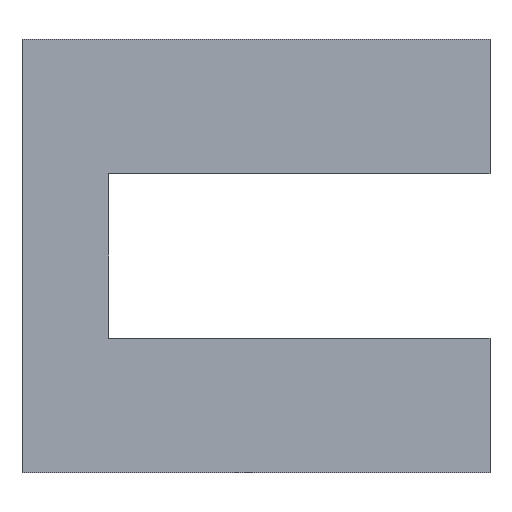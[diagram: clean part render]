
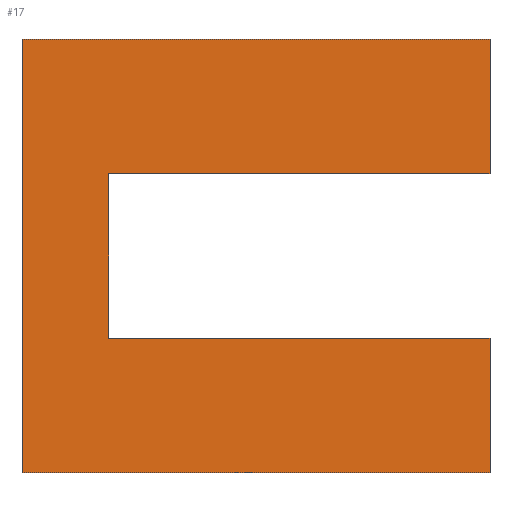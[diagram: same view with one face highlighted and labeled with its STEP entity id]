
A CAD part, front view. The second image highlights one B-rep face of the part: STEP entity #17.
In plain terms, the highlighted planar face has unit normal (0.035, -0.999, 0).
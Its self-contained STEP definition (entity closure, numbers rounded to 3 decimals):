
#17 = ADVANCED_FACE('',(#18),#32,.F.);
#18 = FACE_BOUND('',#19,.F.);
#19 = EDGE_LOOP('',(#20,#55,#83,#111,#139,#165,#191,#217));
#20 = ORIENTED_EDGE('',*,*,#21,.F.);
#21 = EDGE_CURVE('',#22,#24,#26,.T.);
#22 = VERTEX_POINT('',#23);
#23 = CARTESIAN_POINT('',(42.,-27.1,-25.));
#24 = VERTEX_POINT('',#25);
#25 = CARTESIAN_POINT('',(96.,-25.2,-25.));
#26 = SURFACE_CURVE('',#27,(#31,#43),.PCURVE_S1.);
#27 = LINE('',#28,#29);
#28 = CARTESIAN_POINT('',(42.,-27.1,-25.));
#29 = VECTOR('',#30,1.);
#30 = DIRECTION('',(0.999,0.035,0.));
#31 = PCURVE('',#32,#37);
#32 = PLANE('',#33);
#33 = AXIS2_PLACEMENT_3D('',#34,#35,#36);
#34 = CARTESIAN_POINT('',(42.,-27.1,-25.));
#35 = DIRECTION('',(-0.035,0.999,0.));
#36 = DIRECTION('',(0.999,0.035,0.));
#37 = DEFINITIONAL_REPRESENTATION('',(#38),#42);
#38 = LINE('',#39,#40);
#39 = CARTESIAN_POINT('',(0.,0.));
#40 = VECTOR('',#41,1.);
#41 = DIRECTION('',(1.,0.));
#42 = ( GEOMETRIC_REPRESENTATION_CONTEXT(2) 
PARAMETRIC_REPRESENTATION_CONTEXT() REPRESENTATION_CONTEXT('2D SPACE',''
  ) );
#43 = PCURVE('',#44,#49);
#44 = PLANE('',#45);
#45 = AXIS2_PLACEMENT_3D('',#46,#47,#48);
#46 = CARTESIAN_POINT('',(69.,-25.15,-25.));
#47 = DIRECTION('',(0.,0.,1.));
#48 = DIRECTION('',(1.,0.,-0.));
#49 = DEFINITIONAL_REPRESENTATION('',(#50),#54);
#50 = LINE('',#51,#52);
#51 = CARTESIAN_POINT('',(-27.,-1.95));
#52 = VECTOR('',#53,1.);
#53 = DIRECTION('',(0.999,0.035));
#54 = ( GEOMETRIC_REPRESENTATION_CONTEXT(2) 
PARAMETRIC_REPRESENTATION_CONTEXT() REPRESENTATION_CONTEXT('2D SPACE',''
  ) );
#55 = ORIENTED_EDGE('',*,*,#56,.T.);
#56 = EDGE_CURVE('',#22,#57,#59,.T.);
#57 = VERTEX_POINT('',#58);
#58 = CARTESIAN_POINT('',(42.,-27.1,25.));
#59 = SURFACE_CURVE('',#60,(#64,#71),.PCURVE_S1.);
#60 = LINE('',#61,#62);
#61 = CARTESIAN_POINT('',(42.,-27.1,-25.));
#62 = VECTOR('',#63,1.);
#63 = DIRECTION('',(0.,0.,1.));
#64 = PCURVE('',#32,#65);
#65 = DEFINITIONAL_REPRESENTATION('',(#66),#70);
#66 = LINE('',#67,#68);
#67 = CARTESIAN_POINT('',(0.,0.));
#68 = VECTOR('',#69,1.);
#69 = DIRECTION('',(0.,-1.));
#70 = ( GEOMETRIC_REPRESENTATION_CONTEXT(2) 
PARAMETRIC_REPRESENTATION_CONTEXT() REPRESENTATION_CONTEXT('2D SPACE',''
  ) );
#71 = PCURVE('',#72,#77);
#72 = PLANE('',#73);
#73 = AXIS2_PLACEMENT_3D('',#74,#75,#76);
#74 = CARTESIAN_POINT('',(42.,-25.1,-25.));
#75 = DIRECTION('',(1.,0.,-0.));
#76 = DIRECTION('',(0.,-1.,0.));
#77 = DEFINITIONAL_REPRESENTATION('',(#78),#82);
#78 = LINE('',#79,#80);
#79 = CARTESIAN_POINT('',(2.,0.));
#80 = VECTOR('',#81,1.);
#81 = DIRECTION('',(0.,-1.));
#82 = ( GEOMETRIC_REPRESENTATION_CONTEXT(2) 
PARAMETRIC_REPRESENTATION_CONTEXT() REPRESENTATION_CONTEXT('2D SPACE',''
  ) );
#83 = ORIENTED_EDGE('',*,*,#84,.T.);
#84 = EDGE_CURVE('',#57,#85,#87,.T.);
#85 = VERTEX_POINT('',#86);
#86 = CARTESIAN_POINT('',(96.,-25.2,25.));
#87 = SURFACE_CURVE('',#88,(#92,#99),.PCURVE_S1.);
#88 = LINE('',#89,#90);
#89 = CARTESIAN_POINT('',(42.,-27.1,25.));
#90 = VECTOR('',#91,1.);
#91 = DIRECTION('',(0.999,0.035,0.));
#92 = PCURVE('',#32,#93);
#93 = DEFINITIONAL_REPRESENTATION('',(#94),#98);
#94 = LINE('',#95,#96);
#95 = CARTESIAN_POINT('',(0.,-50.));
#96 = VECTOR('',#97,1.);
#97 = DIRECTION('',(1.,0.));
#98 = ( GEOMETRIC_REPRESENTATION_CONTEXT(2) 
PARAMETRIC_REPRESENTATION_CONTEXT() REPRESENTATION_CONTEXT('2D SPACE',''
  ) );
#99 = PCURVE('',#100,#105);
#100 = PLANE('',#101);
#101 = AXIS2_PLACEMENT_3D('',#102,#103,#104);
#102 = CARTESIAN_POINT('',(69.,-25.15,25.));
#103 = DIRECTION('',(0.,0.,1.));
#104 = DIRECTION('',(1.,0.,-0.));
#105 = DEFINITIONAL_REPRESENTATION('',(#106),#110);
#106 = LINE('',#107,#108);
#107 = CARTESIAN_POINT('',(-27.,-1.95));
#108 = VECTOR('',#109,1.);
#109 = DIRECTION('',(0.999,0.035));
#110 = ( GEOMETRIC_REPRESENTATION_CONTEXT(2) 
PARAMETRIC_REPRESENTATION_CONTEXT() REPRESENTATION_CONTEXT('2D SPACE',''
  ) );
#111 = ORIENTED_EDGE('',*,*,#112,.F.);
#112 = EDGE_CURVE('',#113,#85,#115,.T.);
#113 = VERTEX_POINT('',#114);
#114 = CARTESIAN_POINT('',(96.,-25.2,9.5));
#115 = SURFACE_CURVE('',#116,(#120,#127),.PCURVE_S1.);
#116 = LINE('',#117,#118);
#117 = CARTESIAN_POINT('',(96.,-25.2,-25.));
#118 = VECTOR('',#119,1.);
#119 = DIRECTION('',(0.,0.,1.));
#120 = PCURVE('',#32,#121);
#121 = DEFINITIONAL_REPRESENTATION('',(#122),#126);
#122 = LINE('',#123,#124);
#123 = CARTESIAN_POINT('',(54.033,0.));
#124 = VECTOR('',#125,1.);
#125 = DIRECTION('',(0.,-1.));
#126 = ( GEOMETRIC_REPRESENTATION_CONTEXT(2) 
PARAMETRIC_REPRESENTATION_CONTEXT() REPRESENTATION_CONTEXT('2D SPACE',''
  ) );
#127 = PCURVE('',#128,#133);
#128 = PLANE('',#129);
#129 = AXIS2_PLACEMENT_3D('',#130,#131,#132);
#130 = CARTESIAN_POINT('',(96.,-25.2,-25.));
#131 = DIRECTION('',(-1.,0.,0.));
#132 = DIRECTION('',(0.,1.,0.));
#133 = DEFINITIONAL_REPRESENTATION('',(#134),#138);
#134 = LINE('',#135,#136);
#135 = CARTESIAN_POINT('',(0.,0.));
#136 = VECTOR('',#137,1.);
#137 = DIRECTION('',(0.,-1.));
#138 = ( GEOMETRIC_REPRESENTATION_CONTEXT(2) 
PARAMETRIC_REPRESENTATION_CONTEXT() REPRESENTATION_CONTEXT('2D SPACE',''
  ) );
#139 = ORIENTED_EDGE('',*,*,#140,.F.);
#140 = EDGE_CURVE('',#141,#113,#143,.T.);
#141 = VERTEX_POINT('',#142);
#142 = CARTESIAN_POINT('',(52.,-26.748,9.5));
#143 = SURFACE_CURVE('',#144,(#148,#154),.PCURVE_S1.);
#144 = LINE('',#145,#146);
#145 = CARTESIAN_POINT('',(46.416,-26.945,9.5));
#146 = VECTOR('',#147,1.);
#147 = DIRECTION('',(0.999,0.035,-0.));
#148 = PCURVE('',#32,#149);
#149 = DEFINITIONAL_REPRESENTATION('',(#150),#153);
#150 = B_SPLINE_CURVE_WITH_KNOTS('',1,(#151,#152),.UNSPECIFIED.,.F.,.F.,
  (2,2),(5.588,49.615),.PIECEWISE_BEZIER_KNOTS.);
#151 = CARTESIAN_POINT('',(10.006,-34.5));
#152 = CARTESIAN_POINT('',(54.033,-34.5));
#153 = ( GEOMETRIC_REPRESENTATION_CONTEXT(2) 
PARAMETRIC_REPRESENTATION_CONTEXT() REPRESENTATION_CONTEXT('2D SPACE',''
  ) );
#154 = PCURVE('',#155,#160);
#155 = PLANE('',#156);
#156 = AXIS2_PLACEMENT_3D('',#157,#158,#159);
#157 = CARTESIAN_POINT('',(52.,-60.,9.5));
#158 = DIRECTION('',(0.,0.,1.));
#159 = DIRECTION('',(1.,0.,0.));
#160 = DEFINITIONAL_REPRESENTATION('',(#161),#164);
#161 = B_SPLINE_CURVE_WITH_KNOTS('',1,(#162,#163),.UNSPECIFIED.,.F.,.F.,
  (2,2),(5.588,49.615),.PIECEWISE_BEZIER_KNOTS.);
#162 = CARTESIAN_POINT('',(0.,33.252));
#163 = CARTESIAN_POINT('',(44.,34.8));
#164 = ( GEOMETRIC_REPRESENTATION_CONTEXT(2) 
PARAMETRIC_REPRESENTATION_CONTEXT() REPRESENTATION_CONTEXT('2D SPACE',''
  ) );
#165 = ORIENTED_EDGE('',*,*,#166,.T.);
#166 = EDGE_CURVE('',#141,#167,#169,.T.);
#167 = VERTEX_POINT('',#168);
#168 = CARTESIAN_POINT('',(52.,-26.748,-9.5));
#169 = SURFACE_CURVE('',#170,(#174,#180),.PCURVE_S1.);
#170 = LINE('',#171,#172);
#171 = CARTESIAN_POINT('',(52.,-26.748,-17.25));
#172 = VECTOR('',#173,1.);
#173 = DIRECTION('',(0.,0.,-1.));
#174 = PCURVE('',#32,#175);
#175 = DEFINITIONAL_REPRESENTATION('',(#176),#179);
#176 = B_SPLINE_CURVE_WITH_KNOTS('',1,(#177,#178),.UNSPECIFIED.,.F.,.F.,
  (2,2),(-26.75,-7.75),.PIECEWISE_BEZIER_KNOTS.);
#177 = CARTESIAN_POINT('',(10.006,-34.5));
#178 = CARTESIAN_POINT('',(10.006,-15.5));
#179 = ( GEOMETRIC_REPRESENTATION_CONTEXT(2) 
PARAMETRIC_REPRESENTATION_CONTEXT() REPRESENTATION_CONTEXT('2D SPACE',''
  ) );
#180 = PCURVE('',#181,#186);
#181 = PLANE('',#182);
#182 = AXIS2_PLACEMENT_3D('',#183,#184,#185);
#183 = CARTESIAN_POINT('',(52.,-60.,-9.5));
#184 = DIRECTION('',(1.,0.,0.));
#185 = DIRECTION('',(0.,0.,1.));
#186 = DEFINITIONAL_REPRESENTATION('',(#187),#190);
#187 = B_SPLINE_CURVE_WITH_KNOTS('',1,(#188,#189),.UNSPECIFIED.,.F.,.F.,
  (2,2),(-26.75,-7.75),.PIECEWISE_BEZIER_KNOTS.);
#188 = CARTESIAN_POINT('',(19.,-33.252));
#189 = CARTESIAN_POINT('',(0.,-33.252));
#190 = ( GEOMETRIC_REPRESENTATION_CONTEXT(2) 
PARAMETRIC_REPRESENTATION_CONTEXT() REPRESENTATION_CONTEXT('2D SPACE',''
  ) );
#191 = ORIENTED_EDGE('',*,*,#192,.T.);
#192 = EDGE_CURVE('',#167,#193,#195,.T.);
#193 = VERTEX_POINT('',#194);
#194 = CARTESIAN_POINT('',(96.,-25.2,-9.5));
#195 = SURFACE_CURVE('',#196,(#200,#206),.PCURVE_S1.);
#196 = LINE('',#197,#198);
#197 = CARTESIAN_POINT('',(46.416,-26.945,-9.5));
#198 = VECTOR('',#199,1.);
#199 = DIRECTION('',(0.999,0.035,-0.));
#200 = PCURVE('',#32,#201);
#201 = DEFINITIONAL_REPRESENTATION('',(#202),#205);
#202 = B_SPLINE_CURVE_WITH_KNOTS('',1,(#203,#204),.UNSPECIFIED.,.F.,.F.,
  (2,2),(5.588,49.615),.PIECEWISE_BEZIER_KNOTS.);
#203 = CARTESIAN_POINT('',(10.006,-15.5));
#204 = CARTESIAN_POINT('',(54.033,-15.5));
#205 = ( GEOMETRIC_REPRESENTATION_CONTEXT(2) 
PARAMETRIC_REPRESENTATION_CONTEXT() REPRESENTATION_CONTEXT('2D SPACE',''
  ) );
#206 = PCURVE('',#207,#212);
#207 = PLANE('',#208);
#208 = AXIS2_PLACEMENT_3D('',#209,#210,#211);
#209 = CARTESIAN_POINT('',(52.,-60.,-9.5));
#210 = DIRECTION('',(0.,0.,1.));
#211 = DIRECTION('',(1.,0.,0.));
#212 = DEFINITIONAL_REPRESENTATION('',(#213),#216);
#213 = B_SPLINE_CURVE_WITH_KNOTS('',1,(#214,#215),.UNSPECIFIED.,.F.,.F.,
  (2,2),(5.588,49.615),.PIECEWISE_BEZIER_KNOTS.);
#214 = CARTESIAN_POINT('',(0.,33.252));
#215 = CARTESIAN_POINT('',(44.,34.8));
#216 = ( GEOMETRIC_REPRESENTATION_CONTEXT(2) 
PARAMETRIC_REPRESENTATION_CONTEXT() REPRESENTATION_CONTEXT('2D SPACE',''
  ) );
#217 = ORIENTED_EDGE('',*,*,#218,.F.);
#218 = EDGE_CURVE('',#24,#193,#219,.T.);
#219 = SURFACE_CURVE('',#220,(#224,#231),.PCURVE_S1.);
#220 = LINE('',#221,#222);
#221 = CARTESIAN_POINT('',(96.,-25.2,-25.));
#222 = VECTOR('',#223,1.);
#223 = DIRECTION('',(0.,0.,1.));
#224 = PCURVE('',#32,#225);
#225 = DEFINITIONAL_REPRESENTATION('',(#226),#230);
#226 = LINE('',#227,#228);
#227 = CARTESIAN_POINT('',(54.033,0.));
#228 = VECTOR('',#229,1.);
#229 = DIRECTION('',(0.,-1.));
#230 = ( GEOMETRIC_REPRESENTATION_CONTEXT(2) 
PARAMETRIC_REPRESENTATION_CONTEXT() REPRESENTATION_CONTEXT('2D SPACE',''
  ) );
#231 = PCURVE('',#232,#237);
#232 = PLANE('',#233);
#233 = AXIS2_PLACEMENT_3D('',#234,#235,#236);
#234 = CARTESIAN_POINT('',(96.,-25.2,-25.));
#235 = DIRECTION('',(-1.,0.,0.));
#236 = DIRECTION('',(0.,1.,0.));
#237 = DEFINITIONAL_REPRESENTATION('',(#238),#242);
#238 = LINE('',#239,#240);
#239 = CARTESIAN_POINT('',(0.,0.));
#240 = VECTOR('',#241,1.);
#241 = DIRECTION('',(0.,-1.));
#242 = ( GEOMETRIC_REPRESENTATION_CONTEXT(2) 
PARAMETRIC_REPRESENTATION_CONTEXT() REPRESENTATION_CONTEXT('2D SPACE',''
  ) );
